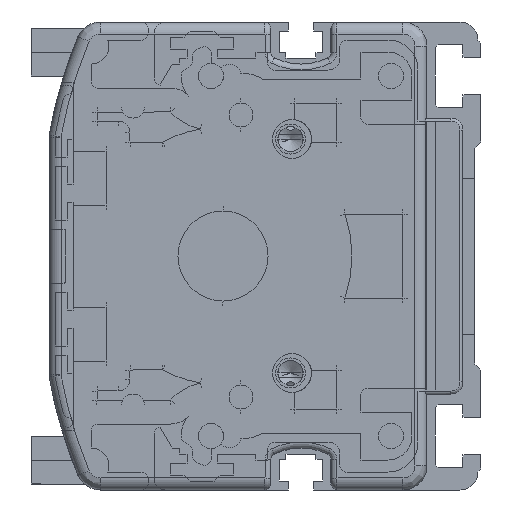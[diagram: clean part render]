
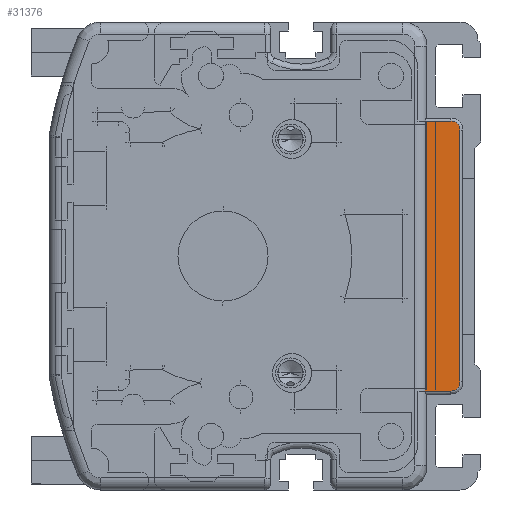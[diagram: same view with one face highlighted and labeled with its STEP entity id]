
A CAD part, left-side view. The second image highlights one B-rep face of the part: STEP entity #31376.
In plain terms, the highlighted planar face has unit normal (-1, 0, 0).
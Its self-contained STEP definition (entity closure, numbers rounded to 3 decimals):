
#25931=DIRECTION('',(0.,0.,-1.));
#25932=VECTOR('',#25931,45.);
#25933=CARTESIAN_POINT('',(-2.,10.268,22.5));
#25934=LINE('',#25933,#25932);
#25966=CARTESIAN_POINT('',(-2.,6.,21.));
#25967=DIRECTION('',(1.,0.,0.));
#25968=DIRECTION('',(0.,0.,1.));
#25969=AXIS2_PLACEMENT_3D('',#25966,#25967,#25968);
#25971=CARTESIAN_POINT('',(-2.,6.,-21.));
#25972=DIRECTION('',(1.,0.,0.));
#25973=DIRECTION('',(0.,-1.,0.));
#25974=AXIS2_PLACEMENT_3D('',#25971,#25972,#25973);
#25980=DIRECTION('',(0.,-1.,0.));
#25981=VECTOR('',#25980,4.268);
#25982=CARTESIAN_POINT('',(-2.,10.268,-22.5));
#25983=LINE('',#25982,#25981);
#26514=DIRECTION('',(0.,0.,1.));
#26515=VECTOR('',#26514,42.);
#26516=CARTESIAN_POINT('',(-2.,4.5,-21.));
#26517=LINE('',#26516,#26515);
#26537=DIRECTION('',(0.,1.,0.));
#26538=VECTOR('',#26537,4.268);
#26539=CARTESIAN_POINT('',(-2.,6.,22.5));
#26540=LINE('',#26539,#26538);
#29823=CARTESIAN_POINT('',(-2.,10.268,22.5));
#29824=CARTESIAN_POINT('',(-2.,10.268,-22.5));
#29825=VERTEX_POINT('',#29823);
#29826=VERTEX_POINT('',#29824);
#29836=CARTESIAN_POINT('',(-2.,6.,-22.5));
#29837=VERTEX_POINT('',#29836);
#29838=CARTESIAN_POINT('',(-2.,4.5,-21.));
#29839=VERTEX_POINT('',#29838);
#29840=CARTESIAN_POINT('',(-2.,4.5,21.));
#29841=VERTEX_POINT('',#29840);
#29842=CARTESIAN_POINT('',(-2.,6.,
22.5));
#29843=VERTEX_POINT('',#29842);
#31358=CARTESIAN_POINT('',(-2.,7.384,0.));
#31359=DIRECTION('',(1.,0.,0.));
#31360=DIRECTION('',(0.,0.,-1.));
#31361=AXIS2_PLACEMENT_3D('',#31358,#31359,#31360);
#31362=PLANE('',#31361);
#31364=ORIENTED_EDGE('',*,*,#31363,.F.);
#31365=ORIENTED_EDGE('',*,*,#31337,.F.);
#31367=ORIENTED_EDGE('',*,*,#31366,.F.);
#31369=ORIENTED_EDGE('',*,*,#31368,.T.);
#31371=ORIENTED_EDGE('',*,*,#31370,.F.);
#31373=ORIENTED_EDGE('',*,*,#31372,.T.);
#31374=EDGE_LOOP('',(#31364,#31365,#31367,#31369,#31371,#31373));
#31375=FACE_OUTER_BOUND('',#31374,.F.);
#31376=ADVANCED_FACE('',(#31375),#31362,.F.);
#25970=CIRCLE('',#25969,1.5);
#25975=CIRCLE('',#25974,1.5);
#31337=EDGE_CURVE('',#29825,#29826,#25934,.T.);
#31363=EDGE_CURVE('',#29826,#29837,#25983,.T.);
#31366=EDGE_CURVE('',#29843,#29825,#26540,.T.);
#31368=EDGE_CURVE('',#29843,#29841,#25970,.T.);
#31370=EDGE_CURVE('',#29839,#29841,#26517,.T.);
#31372=EDGE_CURVE('',#29839,#29837,#25975,.T.);
